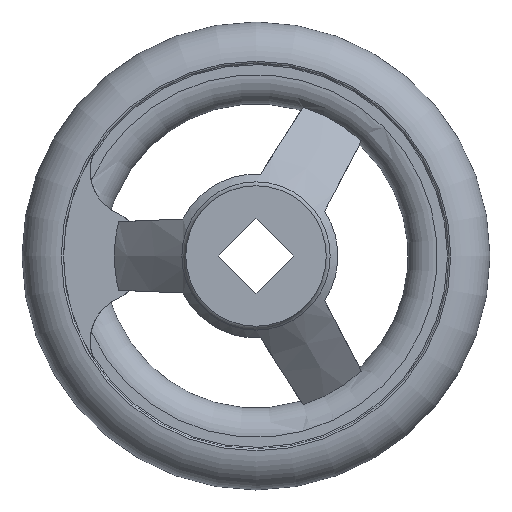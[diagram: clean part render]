
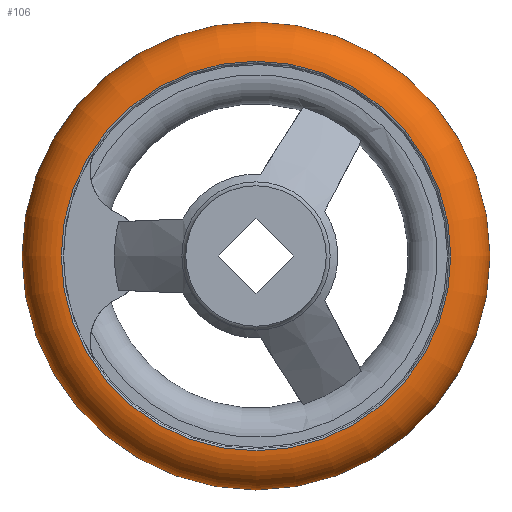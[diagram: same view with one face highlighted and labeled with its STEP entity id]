
A CAD part, left-side view. The second image highlights one B-rep face of the part: STEP entity #106.
In plain terms, the highlighted toroidal (fillet/blend) face has major radius 32.994 mm and minor radius 7.006 mm.
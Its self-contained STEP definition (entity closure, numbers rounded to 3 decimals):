
#106 = ADVANCED_FACE( '', ( #190, #191, #192 ), #193, .T. );
#190 = FACE_BOUND( '', #284, .T. );
#191 = FACE_OUTER_BOUND( '', #285, .T. );
#192 = FACE_OUTER_BOUND( '', #286, .T. );
#193 = TOROIDAL_SURFACE( '', #287, 32.994, 7.006 );
#284 = VERTEX_LOOP( '', #550 );
#285 = EDGE_LOOP( '', ( #551 ) );
#286 = EDGE_LOOP( '', ( #552 ) );
#287 = AXIS2_PLACEMENT_3D( '', #553, #554, #555 );
#550 = VERTEX_POINT( '', #689 );
#551 = ORIENTED_EDGE( '', *, *, #690, .T. );
#552 = ORIENTED_EDGE( '', *, *, #671, .F. );
#553 = CARTESIAN_POINT( '', ( 22., 0., 0. ) );
#554 = DIRECTION( '', ( 1., 0., 0. ) );
#555 = DIRECTION( '', ( 0., 1., 0. ) );
#671 = EDGE_CURVE( '', #819, #819, #820, .T. );
#689 = CARTESIAN_POINT( '', ( 22., 40., 0. ) );
#690 = EDGE_CURVE( '', #846, #846, #847, .T. );
#819 = VERTEX_POINT( '', #1259 );
#820 = CIRCLE( '', #1260, 33.292 );
#846 = VERTEX_POINT( '', #1318 );
#847 = CIRCLE( '', #1319, 33.292 );
#1259 = CARTESIAN_POINT( '', ( 29., 33.292, 0. ) );
#1260 = AXIS2_PLACEMENT_3D( '', #1435, #1436, #1437 );
#1318 = CARTESIAN_POINT( '', ( 15., 33.292, 0. ) );
#1319 = AXIS2_PLACEMENT_3D( '', #1463, #1464, #1465 );
#1435 = CARTESIAN_POINT( '', ( 29., 0., 0. ) );
#1436 = DIRECTION( '', ( 1., 0., 0. ) );
#1437 = DIRECTION( '', ( 0., 1., 0. ) );
#1463 = CARTESIAN_POINT( '', ( 15., 0., 0. ) );
#1464 = DIRECTION( '', ( 1., 0., 0. ) );
#1465 = DIRECTION( '', ( 0., 1., 0. ) );
